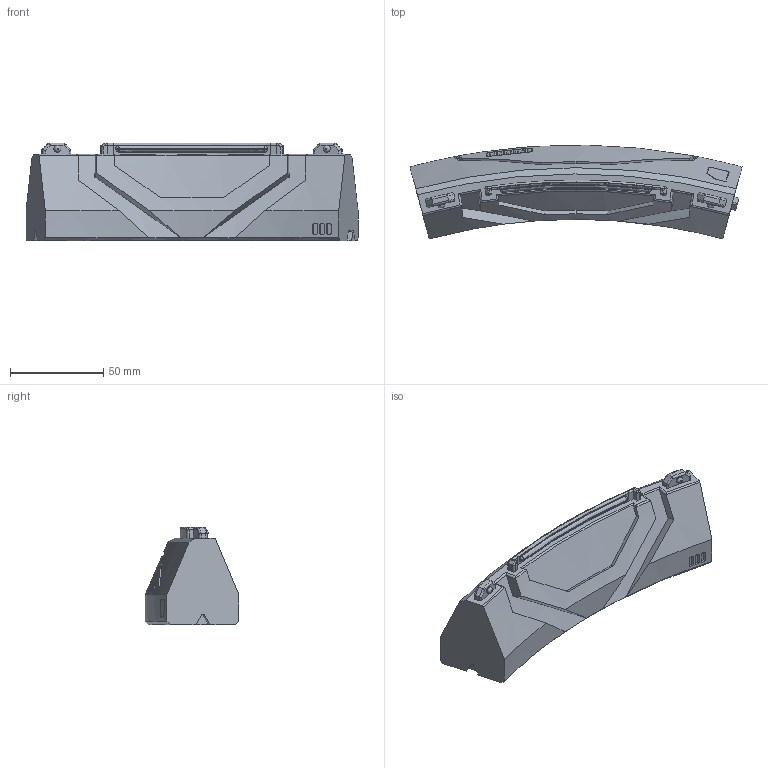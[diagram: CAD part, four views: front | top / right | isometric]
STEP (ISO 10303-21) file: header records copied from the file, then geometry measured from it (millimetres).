
FILE_DESCRIPTION(('HOOPS Exchange Step'),'2;1');
FILE_NAME('C:\Users\graig\Desktop\Death Breaker 3D Files\STP\Wall.stp','2026-09-15T14:26:10+01:00',('graig'),('Unknown organisation'),'HOOPS Exchange 2025.8','HOOPS Exchange','Unknown authorisation');
FILE_SCHEMA( ('AP203_CONFIGURATION_CONTROLLED_3D_DESIGN_OF_MECHANICAL_PARTS_AND_ASSEMBLIES_MIM_LF') );
Length unit declared in the file: millimetre
Products named in the file (2): 0; root
Assembly tree (1 placements, depth 2):
  root
    0
Bounding box: 178.48 x 50.38 x 52.5 mm (x, y, z)
Volume: 238519.8 mm3; surface area: 32508.7 mm2
Topology: 1 solids, 1 shells, 313 faces, 844 edges, 555 vertices
Faces by surface type: bspline 212, plane 51, cylinder 33, torus 9, extrusion 8
Full cylindrical faces by diameter (mm): 3.693 x2
Entity records: 20724 total; most frequent: CARTESIAN_POINT 14533, ORIENTED_EDGE 1680, EDGE_CURVE 840, B_SPLINE_CURVE_WITH_KNOTS 576, DIRECTION 563, VERTEX_POINT 555, EDGE_LOOP 341, FACE_BOUND 341
